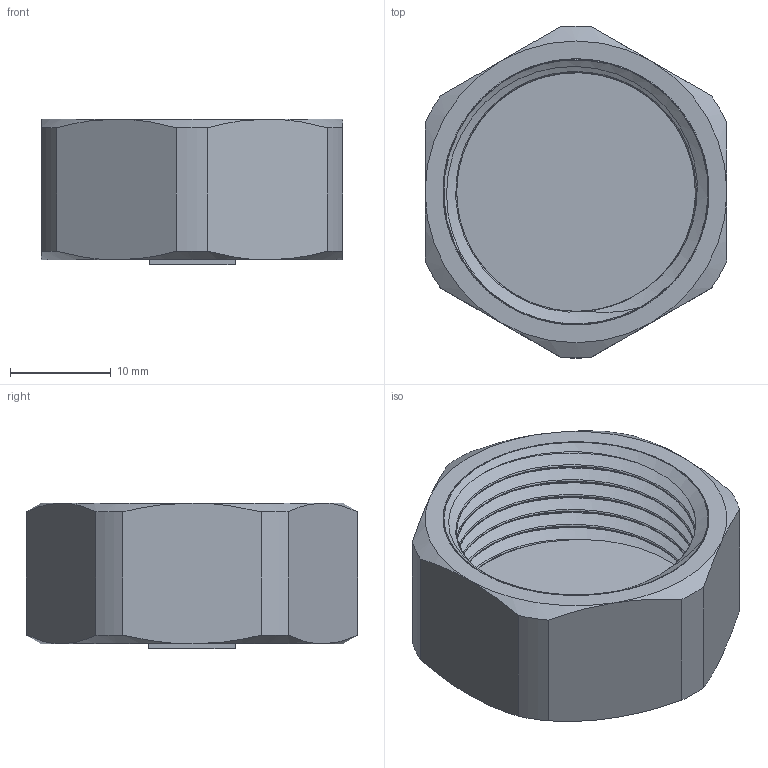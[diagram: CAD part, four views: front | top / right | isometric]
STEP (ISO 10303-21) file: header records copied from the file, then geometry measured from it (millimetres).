
FILE_DESCRIPTION(/* description */ (''),/* implementation_level */ '2;1');
FILE_NAME(/* name */ 'C:\Users\Doom\Desktop\Фадотех\Резьба\ZV02 18.03.2020\ZV02 18.03.2020.stp',/* time_stamp */ '2022-01-22T16:03:10+02:00',/* author */ ('Doom'),/* organization */ (''),/* preprocessor_version */ 'ST-DEVELOPER v18',/* originating_system */ 'Autodesk Inventor 2020',/* authorisation */ '');
FILE_SCHEMA (('AUTOMOTIVE_DESIGN { 1 0 10303 214 3 1 1 }'));
Length unit declared in the file: millimetre
Products named in the file (1): ZV02 18.03.2020
Bounding box: 30 x 32.98 x 14.5 mm (x, y, z)
Volume: 5333.7 mm3; surface area: 6430.3 mm2
Topology: 2 solids, 2 shells, 70 faces, 180 edges, 117 vertices
Faces by surface type: plane 32, cylinder 15, cone 13, bspline 10
Full cylindrical faces by diameter (mm): 23.75 x5, 26.44 x2
Entity records: 5646 total; most frequent: CARTESIAN_POINT 4058, ORIENTED_EDGE 356, DIRECTION 270, EDGE_CURVE 178, VERTEX_POINT 116, AXIS2_PLACEMENT_3D 96, LINE 78, VECTOR 78
